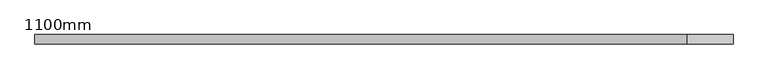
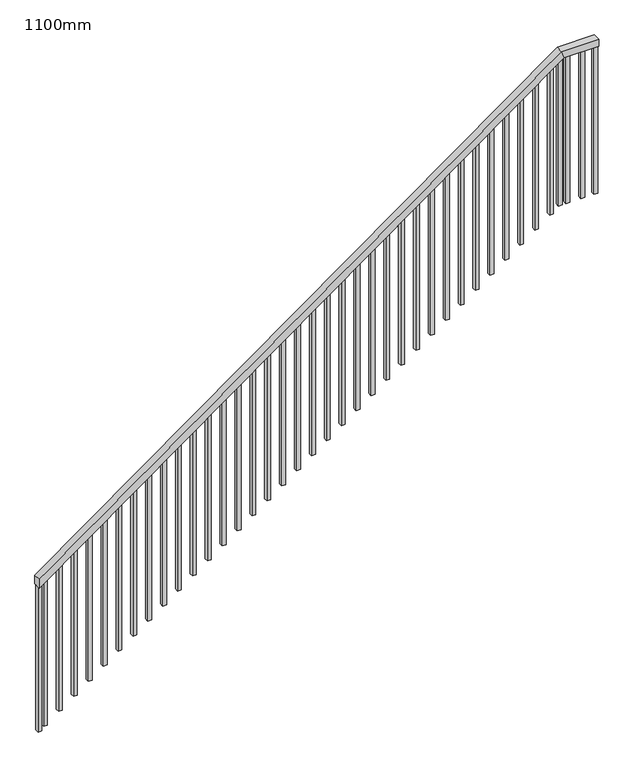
"""IFC4 building model written with IfcOpenShell, lengths in millimetres: railing geometry, 1100mm."""

from ifc_helpers import new_model, si_unit, frame, origin, place, context, project, spatial, polyline, outline, extrude, faceted_brep, source, transform, mapped, element, save


def railing_1100mm_3fbf77a3(model_context):
    return source(origin(), model_context, "Body", "SolidModel", [
        faceted_brep([(-292.6847253, 3773.3694358, 5693.75), (-292.6820889, 3823.3694357, 5693.75), (-292.6820889, 3823.3694357, 5632.2085682), (-292.6847253, 3773.3694358, 5632.2085682), (3217.3152698, 3773.1843617, 8212.5), (3217.3179062, 3823.1843616, 8212.5), (3233.4014498, 3823.1835136, 8162.5), (3233.3988134, 3773.1835136, 8162.5), (3467.3152694, 3773.1711798, 8212.5), (3467.3152694, 3773.1711798, 8162.5), (3467.3179058, 3823.1711797, 8162.5), (3467.3179058, 3823.1711797, 8212.5)], [[[0, 1, 2, 3]], [[1, 0, 4, 5]], [[2, 1, 5, 6]], [[3, 2, 6, 7]], [[0, 3, 7, 4]], [[8, 9, 10, 11]], [[5, 4, 8, 11]], [[6, 5, 11, 10]], [[7, 6, 10, 9]], [[4, 7, 9, 8]]]),
        extrude(outline(polyline([(3354.8159287, 3785.6771116), (3354.8172469, 3810.6771116), (3379.8172469, 3810.6757934), (3379.8159287, 3785.6757934), (3354.8159287, 3785.6771116)])), frame((0.0, 0.0, 7112.5), z_axis=(0.0, 0.0, 1.0), x_axis=(1.0, 0.0, 0.0)), (0.0, 0.0, 1.0), 1050.0),
        extrude(outline(polyline([(3254.8159288, 3785.6823844), (3254.817247, 3810.6823843), (3279.817247, 3810.6810661), (3279.8159288, 3785.6810662), (3254.8159288, 3785.6823844)])), frame((0.0, 0.0, 7112.5), z_axis=(0.0, 0.0, 1.0), x_axis=(1.0, 0.0, 0.0)), (0.0, 0.0, 1.0), 1050.0),
        extrude(outline(polyline([(108.9699074, 0.0), (1138.4585683, 0.0), (1138.4585683, -25.0), (91.0300926, -25.0), (108.9699074, 0.0)])), frame((3144.815929, 3785.6881844, 8207.9030127), z_axis=(5.272766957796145e-05, 0.9999999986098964, 0.0), x_axis=(0.0, 0.0, -1.0)), (0.0, 0.0, 1.0), 25.0),
        extrude(outline(polyline([(108.9699074, 0.0), (1138.4585682, 0.0), (1138.4585682, -25.0), (91.0300926, -25.0), (108.9699074, 0.0)])), frame((3044.8159291, 3785.6934572, 8136.1437534), z_axis=(5.272766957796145e-05, 0.9999999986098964, 0.0), x_axis=(0.0, 0.0, -1.0)), (0.0, 0.0, 1.0), 25.0),
        extrude(outline(polyline([(108.9699074, 0.0), (1138.4585683, 0.0), (1138.4585683, -24.9999999), (91.0300926, -24.9999999), (108.9699074, 0.0)])), frame((2944.8159293, 3785.6987299, 8064.3844942), z_axis=(5.272766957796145e-05, 0.9999999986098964, 0.0), x_axis=(0.0, 0.0, -1.0)), (0.0, 0.0, 1.0), 25.0),
        extrude(outline(polyline([(108.9699074, 0.0), (1138.4585682, 0.0), (1138.4585682, -25.0), (91.0300926, -25.0), (108.9699074, 0.0)])), frame((2844.8159294, 3785.7040027, 7992.6252349), z_axis=(5.272766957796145e-05, 0.9999999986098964, 0.0), x_axis=(0.0, 0.0, -1.0)), (0.0, 0.0, 1.0), 25.0),
        extrude(outline(polyline([(108.9699075, 0.0), (1138.4585683, 0.0), (1138.4585683, -25.0), (91.0300926, -25.0), (108.9699075, 0.0)])), frame((2744.8159295, 3785.7092755, 7920.8659757), z_axis=(5.272766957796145e-05, 0.9999999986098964, 0.0), x_axis=(0.0, 0.0, -1.0)), (0.0, 0.0, 1.0), 25.0),
        extrude(outline(polyline([(108.9699074, 0.0), (1138.4585683, 0.0), (1138.4585683, -24.9999999), (91.0300926, -24.9999999), (108.9699074, 0.0)])), frame((2644.8159297, 3785.7145482, 7849.1067164), z_axis=(5.272766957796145e-05, 0.9999999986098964, 0.0), x_axis=(0.0, 0.0, -1.0)), (0.0, 0.0, 1.0), 25.0),
        extrude(outline(polyline([(108.9699074, 0.0), (1138.4585682, 0.0), (1138.4585682, -25.0), (91.0300926, -25.0), (108.9699074, 0.0)])), frame((2544.8159298, 3785.719821, 7777.3474571), z_axis=(5.272766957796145e-05, 0.9999999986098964, 0.0), x_axis=(0.0, 0.0, -1.0)), (0.0, 0.0, 1.0), 25.0),
        extrude(outline(polyline([(108.9699074, 0.0), (1138.4585683, 0.0), (1138.4585683, -24.9999999), (91.0300926, -24.9999999), (108.9699074, 0.0)])), frame((2444.81593, 3785.7250938, 7705.5881979), z_axis=(5.272766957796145e-05, 0.9999999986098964, 0.0), x_axis=(0.0, 0.0, -1.0)), (0.0, 0.0, 1.0), 25.0),
        extrude(outline(polyline([(108.9699074, 0.0), (1138.4585682, 0.0), (1138.4585682, -25.0), (91.0300926, -25.0), (108.9699074, 0.0)])), frame((2344.8159301, 3785.7303665, 7633.8289386), z_axis=(5.272766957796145e-05, 0.9999999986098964, 0.0), x_axis=(0.0, 0.0, -1.0)), (0.0, 0.0, 1.0), 25.0),
        extrude(outline(polyline([(108.9699074, 0.0), (1138.4585683, 0.0), (1138.4585683, -25.0), (91.0300926, -25.0), (108.9699074, 0.0)])), frame((2244.8159302, 3785.7356393, 7562.0696794), z_axis=(5.272766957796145e-05, 0.9999999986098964, 0.0), x_axis=(0.0, 0.0, -1.0)), (0.0, 0.0, 1.0), 25.0),
        extrude(outline(polyline([(108.9699074, 0.0), (1138.4585682, 0.0), (1138.4585682, -24.9999999), (91.0300926, -24.9999999), (108.9699074, 0.0)])), frame((2144.8159304, 3785.7409121, 7490.3104201), z_axis=(5.272766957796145e-05, 0.9999999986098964, 0.0), x_axis=(0.0, 0.0, -1.0)), (0.0, 0.0, 1.0), 25.0),
        extrude(outline(polyline([(108.9699074, 0.0), (1138.4585682, 0.0), (1138.4585682, -25.0), (91.0300926, -25.0), (108.9699074, 0.0)])), frame((2044.8159305, 3785.7461848, 7418.5511608), z_axis=(5.272766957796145e-05, 0.9999999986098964, 0.0), x_axis=(0.0, 0.0, -1.0)), (0.0, 0.0, 1.0), 25.0),
        extrude(outline(polyline([(108.9699074, 0.0), (1138.4585683, 0.0), (1138.4585683, -24.9999999), (91.0300926, -24.9999999), (108.9699074, 0.0)])), frame((1944.8159307, 3785.7514576, 7346.7919016), z_axis=(5.272766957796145e-05, 0.9999999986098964, 0.0), x_axis=(0.0, 0.0, -1.0)), (0.0, 0.0, 1.0), 25.0),
        extrude(outline(polyline([(108.9699074, 0.0), (1138.4585682, 0.0), (1138.4585682, -25.0), (91.0300926, -25.0), (108.9699074, 0.0)])), frame((1844.8159308, 3785.7567304, 7275.0326423), z_axis=(5.272766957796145e-05, 0.9999999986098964, 0.0), x_axis=(0.0, 0.0, -1.0)), (0.0, 0.0, 1.0), 25.0),
        extrude(outline(polyline([(108.9699074, 0.0), (1138.4585683, 0.0), (1138.4585683, -25.0), (91.0300926, -25.0), (108.9699074, 0.0)])), frame((1744.8159309, 3785.7620031, 7203.2733831), z_axis=(5.272766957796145e-05, 0.9999999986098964, 0.0), x_axis=(0.0, 0.0, -1.0)), (0.0, 0.0, 1.0), 25.0),
        extrude(outline(polyline([(108.9699074, 0.0), (1138.4585682, 0.0), (1138.4585682, -24.9999999), (91.0300926, -24.9999999), (108.9699074, 0.0)])), frame((1644.8159311, 3785.7672759, 7131.5141238), z_axis=(5.272766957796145e-05, 0.9999999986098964, 0.0), x_axis=(0.0, 0.0, -1.0)), (0.0, 0.0, 1.0), 25.0),
        extrude(outline(polyline([(108.9699074, 0.0), (1138.4585682, 0.0), (1138.4585682, -25.0), (91.0300925, -25.0), (108.9699074, 0.0)])), frame((1544.8159312, 3785.7725487, 7059.7548645), z_axis=(5.272766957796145e-05, 0.9999999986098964, 0.0), x_axis=(0.0, 0.0, -1.0)), (0.0, 0.0, 1.0), 25.0),
        extrude(outline(polyline([(108.9699074, 0.0), (1138.4585683, 0.0), (1138.4585683, -25.0), (91.0300926, -25.0), (108.9699074, 0.0)])), frame((1444.8159313, 3785.7778215, 6987.9956053), z_axis=(5.272766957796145e-05, 0.9999999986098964, 0.0), x_axis=(0.0, 0.0, -1.0)), (0.0, 0.0, 1.0), 25.0),
        extrude(outline(polyline([(108.9699074, 0.0), (1138.4585682, 0.0), (1138.4585682, -25.0), (91.0300926, -25.0), (108.9699074, 0.0)])), frame((1344.8159315, 3785.7830942, 6916.236346), z_axis=(5.272766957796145e-05, 0.9999999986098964, 0.0), x_axis=(0.0, 0.0, -1.0)), (0.0, 0.0, 1.0), 25.0),
        extrude(outline(polyline([(108.9699074, 0.0), (1138.4585683, 0.0), (1138.4585683, -25.0), (91.0300926, -25.0), (108.9699074, 0.0)])), frame((1244.8159316, 3785.788367, 6844.4770868), z_axis=(5.272766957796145e-05, 0.9999999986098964, 0.0), x_axis=(0.0, 0.0, -1.0)), (0.0, 0.0, 1.0), 25.0),
        extrude(outline(polyline([(108.9699074, 0.0), (1138.4585682, 0.0), (1138.4585682, -24.9999999), (91.0300926, -24.9999999), (108.9699074, 0.0)])), frame((1144.8159318, 3785.7936398, 6772.7178275), z_axis=(5.272766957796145e-05, 0.9999999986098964, 0.0), x_axis=(0.0, 0.0, -1.0)), (0.0, 0.0, 1.0), 25.0),
        extrude(outline(polyline([(108.9699074, 0.0), (1138.4585682, 0.0), (1138.4585682, -25.0), (91.0300925, -25.0), (108.9699074, 0.0)])), frame((1044.8159319, 3785.7989125, 6700.9585682), z_axis=(5.272766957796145e-05, 0.9999999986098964, 0.0), x_axis=(0.0, 0.0, -1.0)), (0.0, 0.0, 1.0), 25.0),
        extrude(outline(polyline([(108.9699074, 0.0), (1138.4585683, 0.0), (1138.4585683, -25.0), (91.0300926, -25.0), (108.9699074, 0.0)])), frame((944.815932, 3785.8041853, 6629.199309), z_axis=(5.272766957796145e-05, 0.9999999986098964, 0.0), x_axis=(0.0, 0.0, -1.0)), (0.0, 0.0, 1.0), 25.0),
        extrude(outline(polyline([(108.9699074, 0.0), (1138.4585682, 0.0), (1138.4585682, -24.9999999), (91.0300926, -24.9999999), (108.9699074, 0.0)])), frame((844.8159322, 3785.8094581, 6557.4400497), z_axis=(5.272766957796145e-05, 0.9999999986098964, 0.0), x_axis=(0.0, 0.0, -1.0)), (0.0, 0.0, 1.0), 25.0),
        extrude(outline(polyline([(108.9699074, 0.0), (1138.4585683, 0.0), (1138.4585683, -25.0), (91.0300926, -25.0), (108.9699074, 0.0)])), frame((744.8159323, 3785.8147308, 6485.6807905), z_axis=(5.272766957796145e-05, 0.9999999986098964, 0.0), x_axis=(0.0, 0.0, -1.0)), (0.0, 0.0, 1.0), 25.0),
        extrude(outline(polyline([(108.9699074, 0.0), (1138.4585682, 0.0), (1138.4585682, -24.9999999), (91.0300926, -24.9999999), (108.9699074, 0.0)])), frame((644.8159325, 3785.8200036, 6413.9215312), z_axis=(5.272766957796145e-05, 0.9999999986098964, 0.0), x_axis=(0.0, 0.0, -1.0)), (0.0, 0.0, 1.0), 25.0),
        extrude(outline(polyline([(108.9699075, 0.0), (1138.4585683, 0.0), (1138.4585683, -25.0), (91.0300926, -25.0), (108.9699075, 0.0)])), frame((544.8159326, 3785.8252764, 6342.162272), z_axis=(5.272766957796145e-05, 0.9999999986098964, 0.0), x_axis=(0.0, 0.0, -1.0)), (0.0, 0.0, 1.0), 25.0),
        extrude(outline(polyline([(108.9699074, 0.0), (1138.4585683, 0.0), (1138.4585683, -25.0), (91.0300926, -25.0), (108.9699074, 0.0)])), frame((444.8159327, 3785.8305491, 6270.4030127), z_axis=(5.272766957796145e-05, 0.9999999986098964, 0.0), x_axis=(0.0, 0.0, -1.0)), (0.0, 0.0, 1.0), 25.0),
        extrude(outline(polyline([(108.9699074, 0.0), (1138.4585682, 0.0), (1138.4585682, -24.9999999), (91.0300926, -24.9999999), (108.9699074, 0.0)])), frame((344.8159329, 3785.8358219, 6198.6437534), z_axis=(5.272766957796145e-05, 0.9999999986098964, 0.0), x_axis=(0.0, 0.0, -1.0)), (0.0, 0.0, 1.0), 25.0),
        extrude(outline(polyline([(108.9699074, 0.0), (1138.4585683, 0.0), (1138.4585683, -25.0), (91.0300926, -25.0), (108.9699074, 0.0)])), frame((244.815933, 3785.8410947, 6126.8844942), z_axis=(5.272766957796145e-05, 0.9999999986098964, 0.0), x_axis=(0.0, 0.0, -1.0)), (0.0, 0.0, 1.0), 25.0),
        extrude(outline(polyline([(108.9699074, 0.0), (1138.4585682, 0.0), (1138.4585682, -24.9999999), (91.0300926, -24.9999999), (108.9699074, 0.0)])), frame((144.8159332, 3785.8463674, 6055.1252349), z_axis=(5.272766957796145e-05, 0.9999999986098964, 0.0), x_axis=(0.0, 0.0, -1.0)), (0.0, 0.0, 1.0), 25.0),
        extrude(outline(polyline([(108.9699075, 0.0), (1138.4585683, 0.0), (1138.4585683, -25.0), (91.0300926, -25.0), (108.9699075, 0.0)])), frame((44.8159333, 3785.8516402, 5983.3659757), z_axis=(5.272766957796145e-05, 0.9999999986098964, 0.0), x_axis=(0.0, 0.0, -1.0)), (0.0, 0.0, 1.0), 25.0),
        extrude(outline(polyline([(108.9699074, 0.0), (1138.4585683, 0.0), (1138.4585683, -25.0), (91.0300926, -25.0), (108.9699074, 0.0)])), frame((-55.1840666, 3785.856913, 5911.6067164), z_axis=(5.272766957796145e-05, 0.9999999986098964, 0.0), x_axis=(0.0, 0.0, -1.0)), (0.0, 0.0, 1.0), 25.0),
        extrude(outline(polyline([(108.9699074, 0.0), (1138.4585682, 0.0), (1138.4585682, -24.9999999), (91.0300926, -24.9999999), (108.9699074, 0.0)])), frame((-155.1840664, 3785.8621857, 5839.8474571), z_axis=(5.272766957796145e-05, 0.9999999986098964, 0.0), x_axis=(0.0, 0.0, -1.0)), (0.0, 0.0, 1.0), 25.0),
        extrude(outline(polyline([(108.9699074, 0.0), (1138.4585683, 0.0), (1138.4585683, -25.0), (91.0300926, -25.0), (108.9699074, 0.0)])), frame((-255.1840663, 3785.8674585, 5768.0881979), z_axis=(5.272766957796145e-05, 0.9999999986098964, 0.0), x_axis=(0.0, 0.0, -1.0)), (0.0, 0.0, 1.0), 25.0),
        extrude(outline(polyline([(3204.8159289, 3785.6850208), (3204.8172471, 3810.6850207), (3229.8172471, 3810.6837025), (3229.8159289, 3785.6837026), (3204.8159289, 3785.6850208)])), frame((0.0, 0.0, 7112.5), z_axis=(0.0, 0.0, 1.0), x_axis=(1.0, 0.0, 0.0)), (0.0, 0.0, 1.0), 1050.0),
        extrude(outline(polyline([(3442.3159286, 3785.6724979), (3442.3172468, 3810.6724979), (3467.3172467, 3810.6711797), (3467.3159285, 3785.6711797), (3442.3159286, 3785.6724979)])), frame((0.0, 0.0, 7112.5), z_axis=(0.0, 0.0, 1.0), x_axis=(1.0, 0.0, 0.0)), (0.0, 0.0, 1.0), 1050.0),
        extrude(outline(polyline([(108.9699075, 0.0), (1138.4585683, 0.0), (1138.4585683, -24.9999999), (91.0300926, -24.9999999), (108.9699075, 0.0)])), frame((-292.6840662, 3785.8694358, 5741.1784757), z_axis=(5.272766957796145e-05, 0.9999999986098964, 0.0), x_axis=(0.0, 0.0, -1.0)), (0.0, 0.0, 1.0), 25.0),
    ])


if __name__ == "__main__":
    model = new_model("IFC4")
    model_context = context("Model", 3, world=origin())
    ifc_project = project(units=[si_unit("LENGTHUNIT", "METRE", prefix="MILLI")], contexts=[model_context])
    site = spatial("IfcSite", under=ifc_project)
    building = spatial("IfcBuilding", under=site)
    placement = place(None, origin())
    railing_1100mm_shape = railing_1100mm_3fbf77a3(model_context)
    element("IfcRailing", 1, ObjectType="1100mm", at=placement, inside=building, context=model_context, shape_type="MappedRepresentation", body=[
        mapped(railing_1100mm_shape, transform((0.0, 0.0, 0.0), x_axis=(1.0, 0.0, 0.0), y_axis=(0.0, 1.0, 0.0), z_axis=(0.0, 0.0, 1.0))),
    ])
    save(model, "model.ifc")
